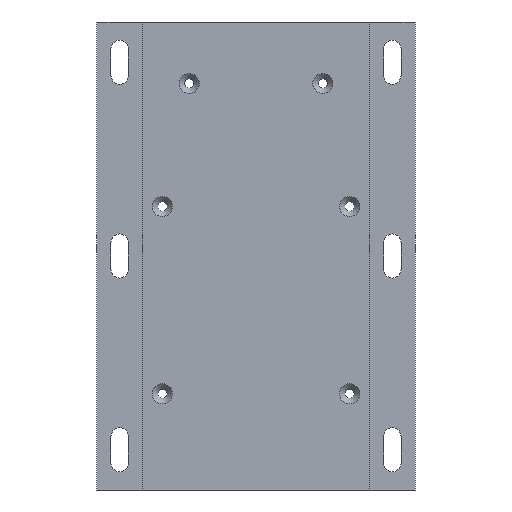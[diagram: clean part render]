
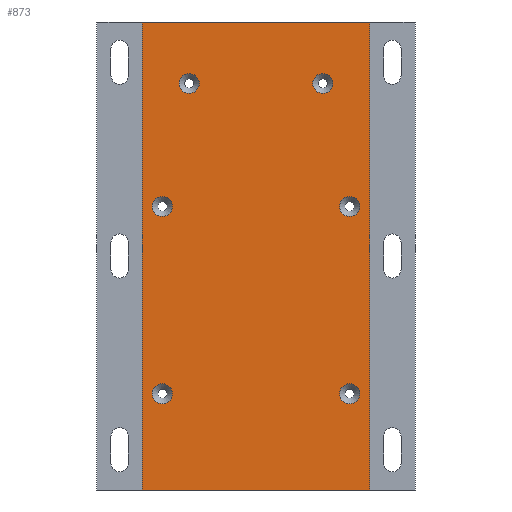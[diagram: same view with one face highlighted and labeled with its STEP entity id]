
A CAD part, front view. The second image highlights one B-rep face of the part: STEP entity #873.
In plain terms, the highlighted planar face has unit normal (0, -1, 0).
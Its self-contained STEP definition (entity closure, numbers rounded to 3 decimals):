
#27=FACE_BOUND('',#176,.T.);
#28=FACE_BOUND('',#177,.T.);
#29=FACE_BOUND('',#178,.T.);
#30=FACE_BOUND('',#179,.T.);
#31=FACE_BOUND('',#180,.T.);
#32=FACE_BOUND('',#181,.T.);
#71=PLANE('',#963);
#117=FACE_OUTER_BOUND('',#175,.T.);
#175=EDGE_LOOP('',(#717,#718,#719,#720));
#176=EDGE_LOOP('',(#721));
#177=EDGE_LOOP('',(#722));
#178=EDGE_LOOP('',(#723));
#179=EDGE_LOOP('',(#724));
#180=EDGE_LOOP('',(#725));
#181=EDGE_LOOP('',(#726));
#257=LINE('',#1421,#329);
#261=LINE('',#1430,#333);
#263=LINE('',#1433,#335);
#264=LINE('',#1434,#336);
#329=VECTOR('',#1181,175.);
#333=VECTOR('',#1187,175.);
#335=VECTOR('',#1191,85.);
#336=VECTOR('',#1192,85.);
#375=CIRCLE('',#932,3.75);
#378=CIRCLE('',#937,3.75);
#381=CIRCLE('',#942,3.75);
#384=CIRCLE('',#947,3.75);
#387=CIRCLE('',#952,3.75);
#390=CIRCLE('',#957,3.75);
#441=VERTEX_POINT('',#1367);
#444=VERTEX_POINT('',#1375);
#447=VERTEX_POINT('',#1383);
#450=VERTEX_POINT('',#1391);
#453=VERTEX_POINT('',#1399);
#456=VERTEX_POINT('',#1407);
#461=VERTEX_POINT('',#1418);
#462=VERTEX_POINT('',#1420);
#465=VERTEX_POINT('',#1427);
#466=VERTEX_POINT('',#1429);
#547=EDGE_CURVE('',#441,#441,#375,.T.);
#550=EDGE_CURVE('',#444,#444,#378,.T.);
#553=EDGE_CURVE('',#447,#447,#381,.T.);
#556=EDGE_CURVE('',#450,#450,#384,.T.);
#559=EDGE_CURVE('',#453,#453,#387,.T.);
#562=EDGE_CURVE('',#456,#456,#390,.T.);
#567=EDGE_CURVE('',#461,#462,#257,.T.);
#571=EDGE_CURVE('',#465,#466,#261,.T.);
#573=EDGE_CURVE('',#462,#465,#263,.T.);
#574=EDGE_CURVE('',#466,#461,#264,.T.);
#717=ORIENTED_EDGE('',*,*,#573,.F.);
#718=ORIENTED_EDGE('',*,*,#567,.F.);
#719=ORIENTED_EDGE('',*,*,#574,.F.);
#720=ORIENTED_EDGE('',*,*,#571,.F.);
#721=ORIENTED_EDGE('',*,*,#547,.T.);
#722=ORIENTED_EDGE('',*,*,#550,.T.);
#723=ORIENTED_EDGE('',*,*,#553,.T.);
#724=ORIENTED_EDGE('',*,*,#556,.T.);
#725=ORIENTED_EDGE('',*,*,#559,.T.);
#726=ORIENTED_EDGE('',*,*,#562,.T.);
#873=ADVANCED_FACE('',(#117,#27,#28,#29,#30,#31,#32),#71,.F.);
#932=AXIS2_PLACEMENT_3D('',#1368,#1119,#1120);
#937=AXIS2_PLACEMENT_3D('',#1376,#1129,#1130);
#942=AXIS2_PLACEMENT_3D('',#1384,#1139,#1140);
#947=AXIS2_PLACEMENT_3D('',#1392,#1149,#1150);
#952=AXIS2_PLACEMENT_3D('',#1400,#1159,#1160);
#957=AXIS2_PLACEMENT_3D('',#1408,#1169,#1170);
#963=AXIS2_PLACEMENT_3D('',#1432,#1189,#1190);
#1119=DIRECTION('center_axis',(0.,1.,0.));
#1120=DIRECTION('ref_axis',(1.,0.,0.));
#1129=DIRECTION('center_axis',(0.,1.,0.));
#1130=DIRECTION('ref_axis',(1.,0.,0.));
#1139=DIRECTION('center_axis',(0.,1.,0.));
#1140=DIRECTION('ref_axis',(1.,0.,0.));
#1149=DIRECTION('center_axis',(0.,1.,0.));
#1150=DIRECTION('ref_axis',(1.,0.,0.));
#1159=DIRECTION('center_axis',(0.,1.,0.));
#1160=DIRECTION('ref_axis',(1.,0.,0.));
#1169=DIRECTION('center_axis',(0.,1.,0.));
#1170=DIRECTION('ref_axis',(1.,0.,0.));
#1181=DIRECTION('',(0.,0.,-1.));
#1187=DIRECTION('',(0.,0.,1.));
#1189=DIRECTION('center_axis',(0.,1.,0.));
#1190=DIRECTION('ref_axis',(0.,0.,1.));
#1191=DIRECTION('',(-1.,0.,0.));
#1192=DIRECTION('',(1.,0.,0.));
#1367=CARTESIAN_POINT('',(28.75,0.5,64.5));
#1368=CARTESIAN_POINT('Origin',(25.,0.5,64.5));
#1375=CARTESIAN_POINT('',(-21.25,0.5,64.5));
#1376=CARTESIAN_POINT('Origin',(-25.,0.5,64.5));
#1383=CARTESIAN_POINT('',(38.75,0.5,-51.5));
#1384=CARTESIAN_POINT('Origin',(35.,0.5,-51.5));
#1391=CARTESIAN_POINT('',(38.75,0.5,18.5));
#1392=CARTESIAN_POINT('Origin',(35.,0.5,18.5));
#1399=CARTESIAN_POINT('',(-31.25,0.5,18.5));
#1400=CARTESIAN_POINT('Origin',(-35.,0.5,18.5));
#1407=CARTESIAN_POINT('',(-31.25,0.5,-51.5));
#1408=CARTESIAN_POINT('Origin',(-35.,0.5,-51.5));
#1418=CARTESIAN_POINT('',(42.5,0.5,87.5));
#1420=CARTESIAN_POINT('',(42.5,0.5,-87.5));
#1421=CARTESIAN_POINT('',(42.5,0.5,-87.5));
#1427=CARTESIAN_POINT('',(-42.5,0.5,-87.5));
#1429=CARTESIAN_POINT('',(-42.5,0.5,87.5));
#1430=CARTESIAN_POINT('',(-42.5,0.5,87.5));
#1432=CARTESIAN_POINT('Origin',(-21.25,0.5,0.));
#1433=CARTESIAN_POINT('',(19.125,0.5,-87.5));
#1434=CARTESIAN_POINT('',(-40.375,0.5,87.5));
